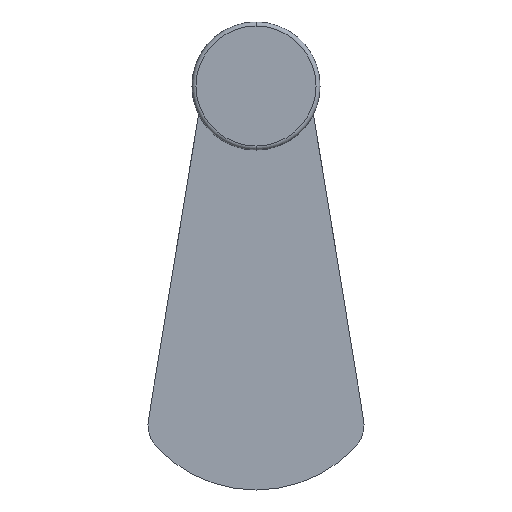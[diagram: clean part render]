
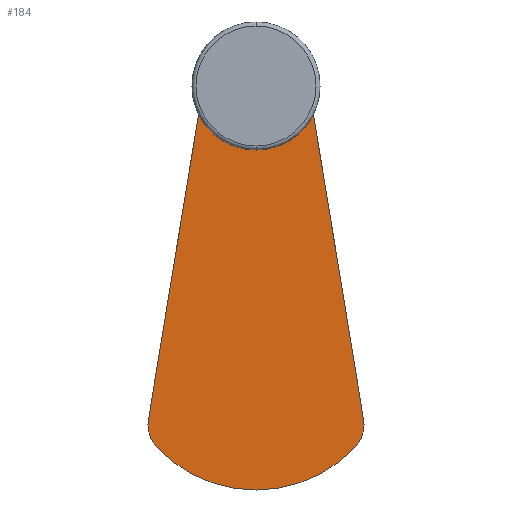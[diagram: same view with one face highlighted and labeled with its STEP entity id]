
A CAD part, front view. The second image highlights one B-rep face of the part: STEP entity #184.
In plain terms, the highlighted planar face has unit normal (0, -1, 0).
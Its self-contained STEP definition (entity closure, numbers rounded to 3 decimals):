
#108 = VERTEX_POINT( '', #285 );
#118 = VERTEX_POINT( '', #297 );
#128 = EDGE_CURVE( '', #250, #142, #308, .T. );
#142 = VERTEX_POINT( '', #323 );
#182 = EDGE_CURVE( '', #118, #244, #369, .T. );
#184 = ADVANCED_FACE( '', ( #371 ), #372, .F. );
#196 = EDGE_CURVE( '', #234, #108, #385, .T. );
#210 = EDGE_CURVE( '', #108, #118, #399, .T. );
#218 = EDGE_CURVE( '', #250, #224, #408, .T. );
#224 = VERTEX_POINT( '', #414 );
#234 = VERTEX_POINT( '', #424 );
#240 = EDGE_CURVE( '', #224, #244, #430, .T. );
#244 = VERTEX_POINT( '', #434 );
#250 = VERTEX_POINT( '', #442 );
#252 = EDGE_CURVE( '', #142, #234, #444, .T. );
#285 = CARTESIAN_POINT( '', ( -12.463, -3., -45.057 ) );
#297 = CARTESIAN_POINT( '', ( -13.45, -3., -41.741 ) );
#308 = LINE( '', #498, #499 );
#323 = CARTESIAN_POINT( '', ( 13.45, -3., -41.741 ) );
#369 = LINE( '', #578, #579 );
#371 = FACE_OUTER_BOUND( '', #581, .T. );
#372 = PLANE( '', #582 );
#385 = CIRCLE( '', #600, 17.034 );
#399 = CIRCLE( '', #619, 4. );
#408 = CIRCLE( '', #631, 8. );
#414 = CARTESIAN_POINT( '', ( 0., -3., -8. ) );
#424 = CARTESIAN_POINT( '', ( 12.463, -3., -45.057 ) );
#430 = CIRCLE( '', #663, 8. );
#434 = CARTESIAN_POINT( '', ( -7.169, -3., -3.55 ) );
#442 = CARTESIAN_POINT( '', ( 7.169, -3., -3.55 ) );
#444 = CIRCLE( '', #679, 4. );
#498 = CARTESIAN_POINT( '', ( 6.5, -3., 0.521 ) );
#499 = VECTOR( '', #736, 1. );
#578 = CARTESIAN_POINT( '', ( -13.45, -3., -41.741 ) );
#579 = VECTOR( '', #810, 1. );
#581 = EDGE_LOOP( '', ( #812, #813, #814, #815, #816, #817, #818 ) );
#582 = AXIS2_PLACEMENT_3D( '', #819, #820, #821 );
#600 = AXIS2_PLACEMENT_3D( '', #832, #833, #834 );
#619 = AXIS2_PLACEMENT_3D( '', #846, #847, #848 );
#631 = AXIS2_PLACEMENT_3D( '', #858, #859, #860 );
#663 = AXIS2_PLACEMENT_3D( '', #873, #874, #875 );
#679 = AXIS2_PLACEMENT_3D( '', #896, #897, #898 );
#736 = DIRECTION( '', ( 0.162, 0., -0.987 ) );
#810 = DIRECTION( '', ( 0.162, 0., 0.987 ) );
#812 = ORIENTED_EDGE( '', *, *, #218, .T. );
#813 = ORIENTED_EDGE( '', *, *, #240, .T. );
#814 = ORIENTED_EDGE( '', *, *, #182, .F. );
#815 = ORIENTED_EDGE( '', *, *, #210, .F. );
#816 = ORIENTED_EDGE( '', *, *, #196, .F. );
#817 = ORIENTED_EDGE( '', *, *, #252, .F. );
#818 = ORIENTED_EDGE( '', *, *, #128, .F. );
#819 = CARTESIAN_POINT( '', ( 0., -3., 0. ) );
#820 = DIRECTION( '', ( 0., 1., 0. ) );
#821 = DIRECTION( '', ( 0., 0., 1. ) );
#832 = CARTESIAN_POINT( '', ( 0., -3., -33.445 ) );
#833 = DIRECTION( '', ( 0., 1., 0. ) );
#834 = DIRECTION( '', ( 0.732, 0., -0.682 ) );
#846 = CARTESIAN_POINT( '', ( -9.5, -3., -42.37 ) );
#847 = DIRECTION( '', ( 0., 1., 0. ) );
#848 = DIRECTION( '', ( -0.741, 0., -0.672 ) );
#858 = CARTESIAN_POINT( '', ( 0., -3., 0. ) );
#859 = DIRECTION( '', ( 0., 1., 0. ) );
#860 = DIRECTION( '', ( 0., 0., -1. ) );
#873 = CARTESIAN_POINT( '', ( 0., -3., 0. ) );
#874 = DIRECTION( '', ( 0., 1., 0. ) );
#875 = DIRECTION( '', ( 0., 0., -1. ) );
#896 = CARTESIAN_POINT( '', ( 9.5, -3., -42.37 ) );
#897 = DIRECTION( '', ( 0., 1., 0. ) );
#898 = DIRECTION( '', ( 0.988, 0., 0.157 ) );
